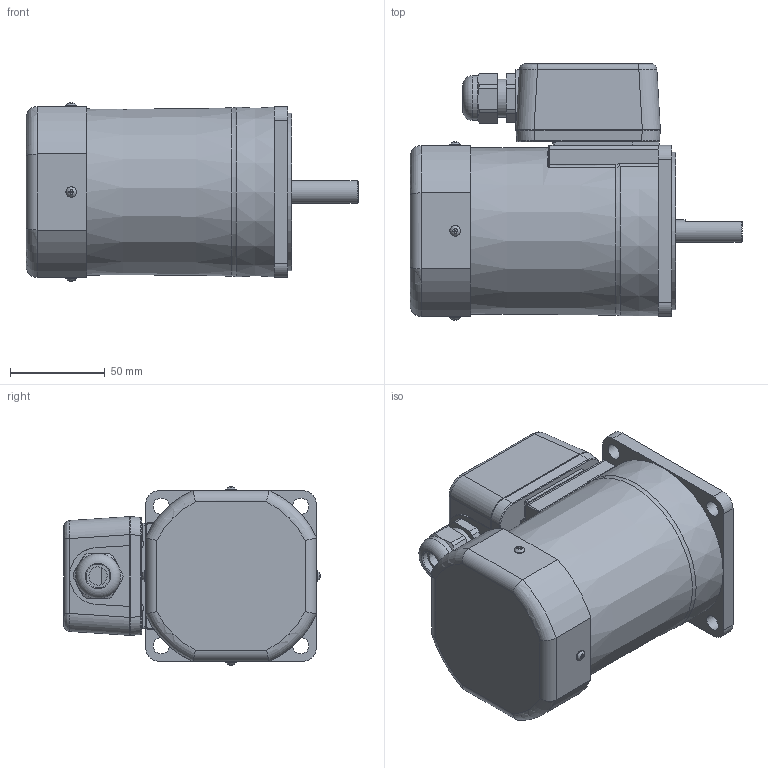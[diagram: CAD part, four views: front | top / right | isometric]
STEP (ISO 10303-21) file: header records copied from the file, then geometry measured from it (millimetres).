
FILE_DESCRIPTION(/* description */ (''),/* implementation_level */ '2;1');
FILE_NAME(/* name */ 'E:\도면작업\2016\0704) 미주향 SG 도면\3D MOTOR\TERMINAL BOX TYPE\INDUCTION TERMINAL BOX\SG9I90D_-T.stp',/* time_stamp */ '2017-01-23T19:20:45+09:00',/* author */ ('jy-jung'),/* organization */ (''),/* preprocessor_version */ 'ST-DEVELOPER v15.6',/* originating_system */ 'Autodesk Inventor 2015',/* authorisation */ '');
FILE_SCHEMA (('AUTOMOTIVE_DESIGN { 1 0 10303 214 3 1 1 }'));
Length unit declared in the file: millimetre
Products named in the file (1): 부품2
Bounding box: 174.8 x 134.95 x 93.89 mm (x, y, z)
Volume: 1088920.9 mm3; surface area: 83558.8 mm2
Topology: 1 solids, 13 shells, 469 faces, 1168 edges, 745 vertices
Faces by surface type: plane 251, cylinder 120, bspline 56, torus 33, cone 9
Full cylindrical faces by diameter (mm): 2.55 x2, 3 x4, 3.5 x4, 5.6 x8, 6.3 x4, 8.5 x4, 12 x1, 12.5 x1, 15 x1, 20 x2, 21 x1, 23.6 x1, 40 x1, 83 x1
Entity records: 15957 total; most frequent: CARTESIAN_POINT 4982, ORIENTED_EDGE 2178, DIRECTION 2028, EDGE_CURVE 1089, VERTEX_POINT 731, AXIS2_PLACEMENT_3D 727, LINE 574, VECTOR 574
